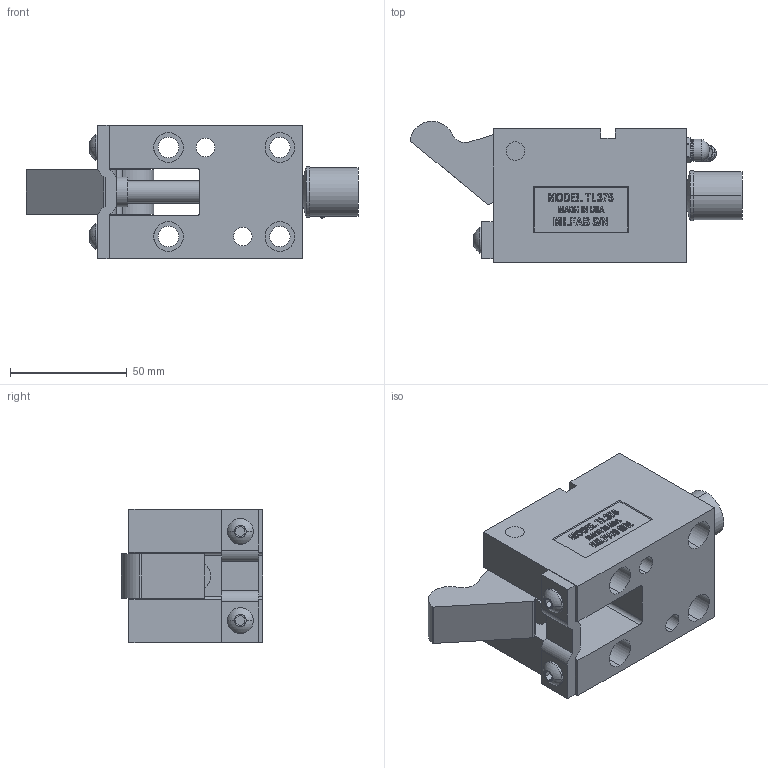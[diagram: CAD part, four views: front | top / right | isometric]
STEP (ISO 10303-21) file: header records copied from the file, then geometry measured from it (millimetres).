
FILE_DESCRIPTION (( 'STEP AP214' ), '1' );
FILE_NAME ('TL37545-O.STEP', '2014-01-05T22:13:28', ( 'user' ), ( '' ), 'SwSTEP 2.0', 'SolidWorks 2009', '' );
FILE_SCHEMA (( 'AUTOMOTIVE_DESIGN' ));
Length unit declared in the file: inch
Products named in the file (11): TL37545-O; TL375-BODY; 375-WASHER; 1-4 SCREW; 375-OFFSET TRIGGER; 375 STRIPPER OPEN; I-375-POINT; L375-PUNCH; 375 PIVOT PIN; 375-I-STRAP; GREASE ZERK
Assembly tree (11 placements, depth 2):
  TL37545-O
    375-WASHER
    L375-PUNCH
    375-OFFSET TRIGGER
    TL375-BODY
    375 PIVOT PIN
    375 STRIPPER OPEN
    375-I-STRAP
    1-4 SCREW  x2
    GREASE ZERK
    I-375-POINT
Bounding box: 141.97 x 60.4 x 57.15 mm (x, y, z)
Volume: 229555.1 mm3; surface area: 58529.5 mm2
Topology: 11 solids, 11 shells, 581 faces, 1499 edges, 984 vertices
Faces by surface type: plane 341, cylinder 100, bspline 86, cone 30, torus 20, sphere 4
Entity records: 22480 total; most frequent: CARTESIAN_POINT 8739, ORIENTED_EDGE 2910, DIRECTION 2411, EDGE_CURVE 1455, VECTOR 965, LINE 965, VERTEX_POINT 958, AXIS2_PLACEMENT_3D 723
